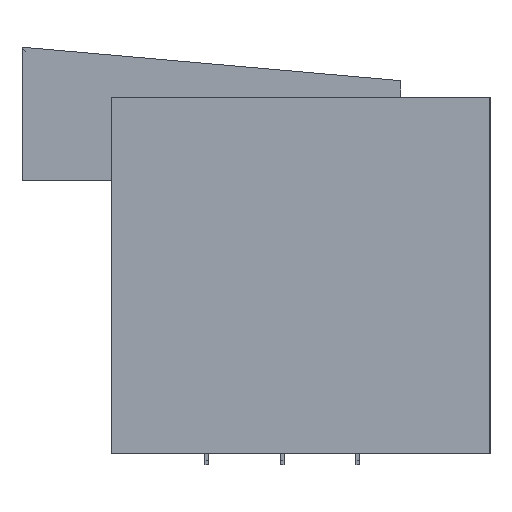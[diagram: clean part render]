
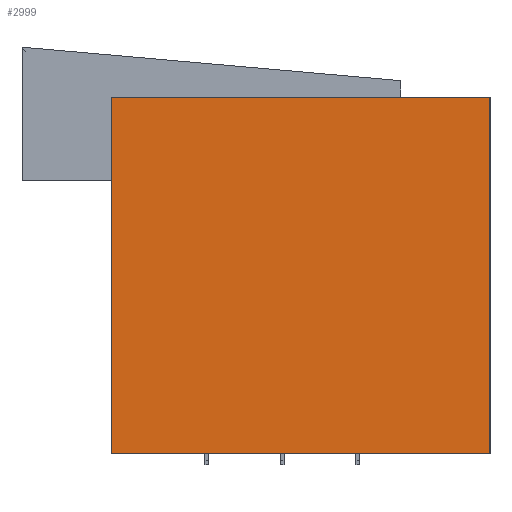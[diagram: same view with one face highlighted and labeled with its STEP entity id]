
A CAD part, left-side view. The second image highlights one B-rep face of the part: STEP entity #2999.
In plain terms, the highlighted planar face has unit normal (-1, 0, 0).
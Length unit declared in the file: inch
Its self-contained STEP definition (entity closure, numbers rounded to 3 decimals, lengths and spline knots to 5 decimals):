
#581=FACE_OUTER_BOUND('',#743,.T.);
#743=EDGE_LOOP('',(#2199,#2200,#2201,#2202));
#926=LINE('',#4309,#1264);
#928=LINE('',#4313,#1266);
#929=LINE('',#4315,#1267);
#930=LINE('',#4316,#1268);
#1264=VECTOR('',#3585,0.3937);
#1266=VECTOR('',#3589,0.3937);
#1267=VECTOR('',#3590,0.3937);
#1268=VECTOR('',#3591,0.3937);
#1593=VERTEX_POINT('',#4306);
#1594=VERTEX_POINT('',#4308);
#1595=VERTEX_POINT('',#4312);
#1596=VERTEX_POINT('',#4314);
#1830=EDGE_CURVE('',#1594,#1593,#926,.T.);
#1832=EDGE_CURVE('',#1593,#1595,#928,.T.);
#1833=EDGE_CURVE('',#1596,#1595,#929,.T.);
#1834=EDGE_CURVE('',#1594,#1596,#930,.T.);
#2199=ORIENTED_EDGE('',*,*,#1832,.T.);
#2200=ORIENTED_EDGE('',*,*,#1833,.F.);
#2201=ORIENTED_EDGE('',*,*,#1834,.F.);
#2202=ORIENTED_EDGE('',*,*,#1830,.T.);
#2839=PLANE('',#3353);
#2999=ADVANCED_FACE('',(#581),#2839,.T.);
#3353=AXIS2_PLACEMENT_3D('',#4311,#3587,#3588);
#3585=DIRECTION('',(0.,-1.,0.));
#3587=DIRECTION('center_axis',(-1.,0.,0.));
#3588=DIRECTION('ref_axis',(0.,0.,-1.));
#3589=DIRECTION('',(0.,0.,1.));
#3590=DIRECTION('',(0.,-1.,0.));
#3591=DIRECTION('',(0.,0.,1.));
#4306=CARTESIAN_POINT('',(0.,0.,-30.5));
#4308=CARTESIAN_POINT('',(0.,34.,-30.5));
#4309=CARTESIAN_POINT('',(0.,34.,-30.5));
#4311=CARTESIAN_POINT('Origin',(0.,34.,1.5));
#4312=CARTESIAN_POINT('',(0.,0.,1.5));
#4313=CARTESIAN_POINT('',(0.,0.,-6.5));
#4314=CARTESIAN_POINT('',(0.,34.,1.5));
#4315=CARTESIAN_POINT('',(0.,34.,1.5));
#4316=CARTESIAN_POINT('',(0.,34.,-30.5));
